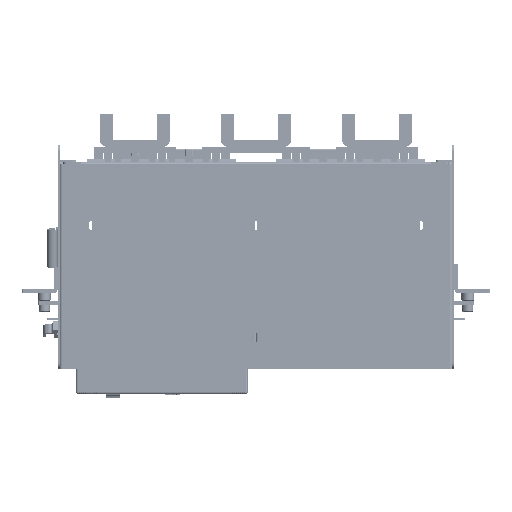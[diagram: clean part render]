
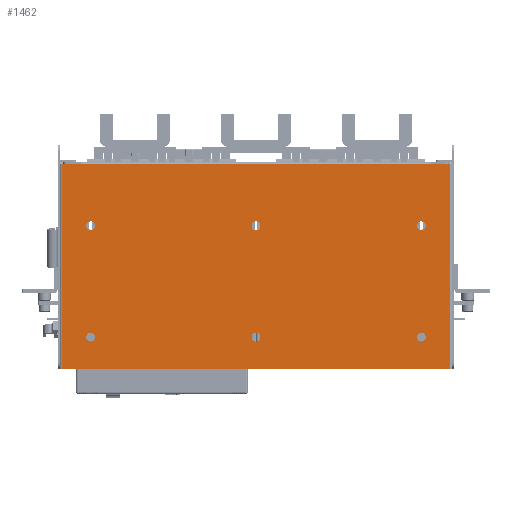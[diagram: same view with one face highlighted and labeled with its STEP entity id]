
A CAD part, front view. The second image highlights one B-rep face of the part: STEP entity #1462.
In plain terms, the highlighted planar face has unit normal (0, -1, 0).
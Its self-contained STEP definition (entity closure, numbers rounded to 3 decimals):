
#161=DIRECTION('',(0.,0.,1.));
#162=VECTOR('',#161,321.75);
#163=CARTESIAN_POINT('',(192.6,-3.2,-160.875));
#164=LINE('',#163,#162);
#169=DIRECTION('',(-1.,0.,0.));
#170=VECTOR('',#169,610.2);
#171=CARTESIAN_POINT('',(192.6,-3.2,-160.875));
#172=LINE('',#171,#170);
#173=CARTESIAN_POINT('',(147.5,-3.2,64.125));
#174=DIRECTION('',(0.,-1.,0.));
#175=DIRECTION('',(-1.,0.,0.));
#176=AXIS2_PLACEMENT_3D('',#173,#174,#175);
#178=CARTESIAN_POINT('',(147.5,-3.2,64.125));
#179=DIRECTION('',(0.,-1.,0.));
#180=DIRECTION('',(1.,0.,0.));
#181=AXIS2_PLACEMENT_3D('',#178,#179,#180);
#183=CARTESIAN_POINT('',(-372.5,-3.2,64.125));
#184=DIRECTION('',(0.,-1.,0.));
#185=DIRECTION('',(-1.,0.,0.));
#186=AXIS2_PLACEMENT_3D('',#183,#184,#185);
#188=CARTESIAN_POINT('',(-372.5,-3.2,64.125));
#189=DIRECTION('',(0.,-1.,0.));
#190=DIRECTION('',(1.,0.,0.));
#191=AXIS2_PLACEMENT_3D('',#188,#189,#190);
#193=CARTESIAN_POINT('',(-112.5,-3.2,64.125));
#194=DIRECTION('',(0.,-1.,0.));
#195=DIRECTION('',(-1.,0.,0.));
#196=AXIS2_PLACEMENT_3D('',#193,#194,#195);
#198=CARTESIAN_POINT('',(-112.5,-3.2,64.125));
#199=DIRECTION('',(0.,-1.,0.));
#200=DIRECTION('',(1.,0.,0.));
#201=AXIS2_PLACEMENT_3D('',#198,#199,#200);
#203=CARTESIAN_POINT('',(147.5,-3.2,-110.875));
#204=DIRECTION('',(0.,-1.,0.));
#205=DIRECTION('',(-1.,0.,0.));
#206=AXIS2_PLACEMENT_3D('',#203,#204,#205);
#208=CARTESIAN_POINT('',(147.5,-3.2,-110.875));
#209=DIRECTION('',(0.,-1.,0.));
#210=DIRECTION('',(1.,0.,0.));
#211=AXIS2_PLACEMENT_3D('',#208,#209,#210);
#213=CARTESIAN_POINT('',(-112.5,-3.2,-110.875));
#214=DIRECTION('',(0.,-1.,0.));
#215=DIRECTION('',(-1.,0.,0.));
#216=AXIS2_PLACEMENT_3D('',#213,#214,#215);
#218=CARTESIAN_POINT('',(-112.5,-3.2,-110.875));
#219=DIRECTION('',(0.,-1.,0.));
#220=DIRECTION('',(1.,0.,0.));
#221=AXIS2_PLACEMENT_3D('',#218,#219,#220);
#223=CARTESIAN_POINT('',(-372.5,-3.2,-110.875));
#224=DIRECTION('',(0.,-1.,0.));
#225=DIRECTION('',(-1.,0.,0.));
#226=AXIS2_PLACEMENT_3D('',#223,#224,#225);
#228=CARTESIAN_POINT('',(-372.5,-3.2,-110.875));
#229=DIRECTION('',(0.,-1.,0.));
#230=DIRECTION('',(1.,0.,0.));
#231=AXIS2_PLACEMENT_3D('',#228,#229,#230);
#237=DIRECTION('',(0.,0.,-1.));
#238=VECTOR('',#237,321.75);
#239=CARTESIAN_POINT('',(-417.6,-3.2,160.875));
#240=LINE('',#239,#238);
#599=DIRECTION('',(-1.,0.,-0.002));
#600=VECTOR('',#599,30.6);
#601=CARTESIAN_POINT('',(192.6,-3.2,160.875));
#602=LINE('',#601,#600);
#703=DIRECTION('',(-1.,0.,0.));
#704=VECTOR('',#703,549.);
#705=CARTESIAN_POINT('',(162.,-3.185,160.805));
#706=LINE('',#705,#704);
#759=DIRECTION('',(-1.,0.,0.002));
#760=VECTOR('',#759,30.6);
#761=CARTESIAN_POINT('',(-387.,-3.185,160.805));
#762=LINE('',#761,#760);
#975=CARTESIAN_POINT('',(-417.6,-3.2,-160.875));
#976=VERTEX_POINT('',#975);
#977=CARTESIAN_POINT('',(192.6,-3.2,-160.875));
#978=VERTEX_POINT('',#977);
#1113=CARTESIAN_POINT('',(192.6,-3.2,160.875));
#1114=VERTEX_POINT('',#1113);
#1115=CARTESIAN_POINT('',(162.,-3.185,160.805));
#1116=VERTEX_POINT('',#1115);
#1131=CARTESIAN_POINT('',(-387.,-3.185,160.805));
#1132=VERTEX_POINT('',#1131);
#1133=CARTESIAN_POINT('',(-417.6,-3.2,160.875));
#1134=VERTEX_POINT('',#1133);
#1137=CARTESIAN_POINT('',(140.5,-3.2,64.125));
#1138=CARTESIAN_POINT('',(154.5,-3.2,64.125));
#1139=VERTEX_POINT('',#1137);
#1140=VERTEX_POINT('',#1138);
#1141=CARTESIAN_POINT('',(-379.5,-3.2,64.125));
#1142=CARTESIAN_POINT('',(-365.5,-3.2,64.125));
#1143=VERTEX_POINT('',#1141);
#1144=VERTEX_POINT('',#1142);
#1145=CARTESIAN_POINT('',(-119.5,-3.2,64.125));
#1146=CARTESIAN_POINT('',(-105.5,-3.2,64.125));
#1147=VERTEX_POINT('',#1145);
#1148=VERTEX_POINT('',#1146);
#1149=CARTESIAN_POINT('',(140.5,-3.2,-110.875));
#1150=CARTESIAN_POINT('',(154.5,-3.2,-110.875));
#1151=VERTEX_POINT('',#1149);
#1152=VERTEX_POINT('',#1150);
#1153=CARTESIAN_POINT('',(-119.5,-3.2,-110.875));
#1154=CARTESIAN_POINT('',(-105.5,-3.2,-110.875));
#1155=VERTEX_POINT('',#1153);
#1156=VERTEX_POINT('',#1154);
#1157=CARTESIAN_POINT('',(-379.5,-3.2,-110.875));
#1158=CARTESIAN_POINT('',(-365.5,-3.2,-110.875));
#1159=VERTEX_POINT('',#1157);
#1160=VERTEX_POINT('',#1158);
#1409=CARTESIAN_POINT('',(-421.3,-3.2,-160.875));
#1410=DIRECTION('',(0.,-1.,0.));
#1411=DIRECTION('',(1.,0.,0.));
#1412=AXIS2_PLACEMENT_3D('',#1409,#1410,#1411);
#1413=PLANE('',#1412);
#1414=ORIENTED_EDGE('',*,*,#1401,.F.);
#1415=ORIENTED_EDGE('',*,*,#1254,.T.);
#1417=ORIENTED_EDGE('',*,*,#1416,.F.);
#1419=ORIENTED_EDGE('',*,*,#1418,.F.);
#1421=ORIENTED_EDGE('',*,*,#1420,.F.);
#1423=ORIENTED_EDGE('',*,*,#1422,.F.);
#1424=EDGE_LOOP('',(#1414,#1415,#1417,#1419,#1421,#1423));
#1425=FACE_OUTER_BOUND('',#1424,.F.);
#1427=ORIENTED_EDGE('',*,*,#1426,.T.);
#1429=ORIENTED_EDGE('',*,*,#1428,.T.);
#1430=EDGE_LOOP('',(#1427,#1429));
#1431=FACE_BOUND('',#1430,.F.);
#1433=ORIENTED_EDGE('',*,*,#1432,.T.);
#1435=ORIENTED_EDGE('',*,*,#1434,.T.);
#1436=EDGE_LOOP('',(#1433,#1435));
#1437=FACE_BOUND('',#1436,.F.);
#1439=ORIENTED_EDGE('',*,*,#1438,.T.);
#1441=ORIENTED_EDGE('',*,*,#1440,.T.);
#1442=EDGE_LOOP('',(#1439,#1441));
#1443=FACE_BOUND('',#1442,.F.);
#1445=ORIENTED_EDGE('',*,*,#1444,.T.);
#1447=ORIENTED_EDGE('',*,*,#1446,.T.);
#1448=EDGE_LOOP('',(#1445,#1447));
#1449=FACE_BOUND('',#1448,.F.);
#1451=ORIENTED_EDGE('',*,*,#1450,.T.);
#1453=ORIENTED_EDGE('',*,*,#1452,.T.);
#1454=EDGE_LOOP('',(#1451,#1453));
#1455=FACE_BOUND('',#1454,.F.);
#1457=ORIENTED_EDGE('',*,*,#1456,.T.);
#1459=ORIENTED_EDGE('',*,*,#1458,.T.);
#1460=EDGE_LOOP('',(#1457,#1459));
#1461=FACE_BOUND('',#1460,.F.);
#1462=ADVANCED_FACE('',(#1425,#1431,#1437,#1443,#1449,#1455,#1461),#1413,.T.);
#177=CIRCLE('',#176,7.);
#182=CIRCLE('',#181,7.);
#187=CIRCLE('',#186,7.);
#192=CIRCLE('',#191,7.);
#197=CIRCLE('',#196,7.);
#202=CIRCLE('',#201,7.);
#207=CIRCLE('',#206,7.);
#212=CIRCLE('',#211,7.);
#217=CIRCLE('',#216,7.);
#222=CIRCLE('',#221,7.);
#227=CIRCLE('',#226,7.);
#232=CIRCLE('',#231,7.);
#1254=EDGE_CURVE('',#978,#976,#172,.T.);
#1401=EDGE_CURVE('',#978,#1114,#164,.T.);
#1416=EDGE_CURVE('',#1134,#976,#240,.T.);
#1418=EDGE_CURVE('',#1132,#1134,#762,.T.);
#1420=EDGE_CURVE('',#1116,#1132,#706,.T.);
#1422=EDGE_CURVE('',#1114,#1116,#602,.T.);
#1426=EDGE_CURVE('',#1139,#1140,#177,.T.);
#1428=EDGE_CURVE('',#1140,#1139,#182,.T.);
#1432=EDGE_CURVE('',#1143,#1144,#187,.T.);
#1434=EDGE_CURVE('',#1144,#1143,#192,.T.);
#1438=EDGE_CURVE('',#1147,#1148,#197,.T.);
#1440=EDGE_CURVE('',#1148,#1147,#202,.T.);
#1444=EDGE_CURVE('',#1151,#1152,#207,.T.);
#1446=EDGE_CURVE('',#1152,#1151,#212,.T.);
#1450=EDGE_CURVE('',#1155,#1156,#217,.T.);
#1452=EDGE_CURVE('',#1156,#1155,#222,.T.);
#1456=EDGE_CURVE('',#1159,#1160,#227,.T.);
#1458=EDGE_CURVE('',#1160,#1159,#232,.T.);
